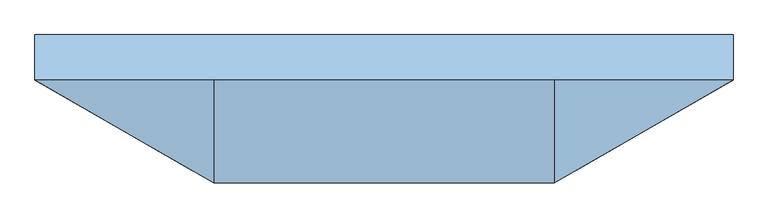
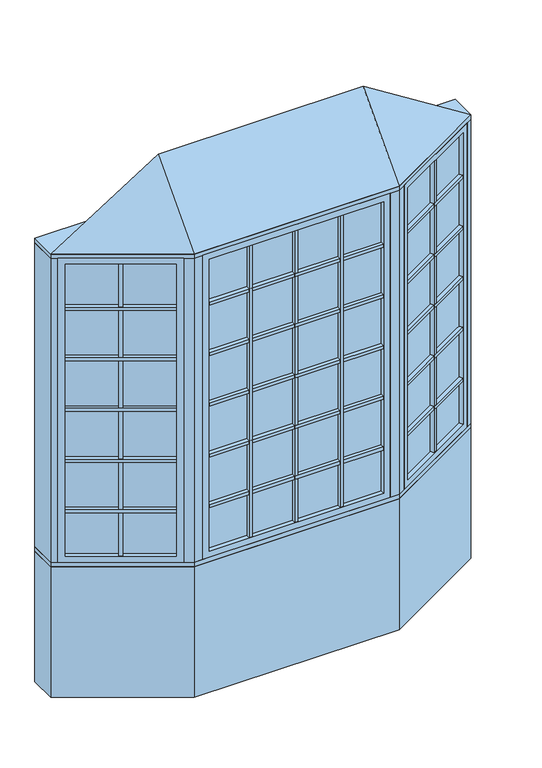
"""IFC4 building model written with IfcOpenShell, lengths in millimetres: window geometry, Pollard_Windows_Tudor Casement Bows and Bays : AML-BAY 30 AFR0618-12-600_GC."""

from ifc_helpers import new_model, si_unit, frame, origin, origin_with_axes, place, context, project, spatial, polyline, outline, extrude, faceted_brep, source, transform, mapped, element, save


def window_de865a25(model_context):
    return source(origin(), model_context, "Body", "SolidModel", [
        extrude(outline(polyline([(646.881999, -376.6297343), (635.881999, -357.5771754), (1102.1135794, -88.3982469), (1113.1135794, -107.4508058), (646.881999, -376.6297343)])), frame((0.0, 0.0, 1690.998), z_axis=(0.0, 0.0, 1.0), x_axis=(1.0, 0.0, 0.0)), (0.0, 0.0, 1.0), 18.0),
        extrude(outline(polyline([(633.341999, -353.1777664), (622.341999, -334.1252075), (1088.5735794, -64.946279), (1099.5735794, -83.9988379), (633.341999, -353.1777664)])), frame((0.0, 0.0, 1690.998), z_axis=(0.0, 0.0, 1.0), x_axis=(1.0, 0.0, 0.0)), (0.0, 0.0, 1.0), 18.0),
        extrude(outline(polyline([(646.881999, -376.6297343), (635.881999, -357.5771754), (1102.1135794, -88.3982469), (1113.1135794, -107.4508058), (646.881999, -376.6297343)])), frame((0.0, 0.0, 1090.998), z_axis=(0.0, 0.0, 1.0), x_axis=(1.0, 0.0, 0.0)), (0.0, 0.0, 1.0), 18.0),
        extrude(outline(polyline([(633.341999, -353.1777664), (622.341999, -334.1252075), (1088.5735794, -64.946279), (1099.5735794, -83.9988379), (633.341999, -353.1777664)])), frame((0.0, 0.0, 1090.998), z_axis=(0.0, 0.0, 1.0), x_axis=(1.0, 0.0, 0.0)), (0.0, 0.0, 1.0), 18.0),
        extrude(outline(polyline([(646.881999, -376.6297343), (635.881999, -357.5771754), (1102.1135794, -88.3982469), (1113.1135794, -107.4508058), (646.881999, -376.6297343)])), frame((0.0, 0.0, 1390.998), z_axis=(0.0, 0.0, 1.0), x_axis=(1.0, 0.0, 0.0)), (0.0, 0.0, 1.0), 18.0),
        extrude(outline(polyline([(633.341999, -353.1777664), (622.341999, -334.1252075), (1088.5735794, -64.946279), (1099.5735794, -83.9988379), (633.341999, -353.1777664)])), frame((0.0, 0.0, 1390.998), z_axis=(0.0, 0.0, 1.0), x_axis=(1.0, 0.0, 0.0)), (0.0, 0.0, 1.0), 18.0),
        extrude(outline(polyline([(646.881999, -376.6297343), (635.881999, -357.5771754), (1102.1135794, -88.3982469), (1113.1135794, -107.4508058), (646.881999, -376.6297343)])), frame((0.0, 0.0, 1990.998), z_axis=(0.0, 0.0, 1.0), x_axis=(1.0, 0.0, 0.0)), (0.0, 0.0, 1.0), 18.0),
        extrude(outline(polyline([(633.341999, -353.1777664), (622.341999, -334.1252075), (1088.5735794, -64.946279), (1099.5735794, -83.9988379), (633.341999, -353.1777664)])), frame((0.0, 0.0, 1990.998), z_axis=(0.0, 0.0, 1.0), x_axis=(1.0, 0.0, 0.0)), (0.0, 0.0, 1.0), 18.0),
        extrude(outline(polyline([(646.881999, -376.6297343), (635.881999, -357.5771754), (1102.1135794, -88.3982469), (1113.1135794, -107.4508058), (646.881999, -376.6297343)])), frame((0.0, 0.0, 2290.998), z_axis=(0.0, 0.0, 1.0), x_axis=(1.0, 0.0, 0.0)), (0.0, 0.0, 1.0), 18.0),
        extrude(outline(polyline([(633.341999, -353.1777664), (622.341999, -334.1252075), (1088.5735794, -64.946279), (1099.5735794, -83.9988379), (633.341999, -353.1777664)])), frame((0.0, 0.0, 2290.998), z_axis=(0.0, 0.0, 1.0), x_axis=(1.0, 0.0, 0.0)), (0.0, 0.0, 1.0), 18.0),
        extrude(outline(polyline([(876.7920178, -218.4877112), (887.7920178, -237.5402701), (872.2035606, -246.5402701), (861.2035606, -227.4877112), (876.7920178, -218.4877112)])), frame((0.0, 0.0, 835.8628), z_axis=(0.0, 0.0, 1.0), x_axis=(1.0, 0.0, 0.0)), (0.0, 0.0, 1.0), 1728.2704),
        extrude(outline(polyline([(874.2520178, -214.0883021), (858.6635606, -223.0883021), (847.6635606, -204.0357432), (863.2520178, -195.0357432), (874.2520178, -214.0883021)])), frame((0.0, 0.0, 835.8628), z_axis=(0.0, 0.0, 1.0), x_axis=(1.0, 0.0, 0.0)), (0.0, 0.0, 1.0), 1728.2704),
        extrude(outline(polyline([(1113.112102, -82.0482469), (624.8834764, -363.9271754), (622.3434764, -359.5277664), (1110.572102, -77.6488379), (1113.112102, -82.0482469)])), frame((0.0, 0.0, 823.1628), z_axis=(0.0, 0.0, 1.0), x_axis=(1.0, 0.0, 0.0)), (0.0, 0.0, 1.0), 1753.6704),
        faceted_brep([(1102.1135794, -88.3982469, 835.8628), (1114.8135794, -110.3952922, 835.8628), (1114.8135794, -110.3952922, 2564.1332), (1102.1135794, -88.3982469, 2564.1332), (1110.572102, -77.6488379, 823.1628), (1113.112102, -82.0482469, 823.1628), (1113.112102, -82.0482469, 2576.8332), (1110.572102, -77.6488379, 2576.8332), (1086.8735794, -62.0017926, 835.8628), (1099.5735794, -83.9988379, 835.8628), (1099.5735794, -83.9988379, 2564.1332), (1086.8735794, -62.0017926, 2564.1332), (1145.8734073, -92.4628922, 799.998), (1117.9334073, -44.0693926, 799.998), (1117.9334073, -44.0693926, 2599.998), (1145.8734073, -92.4628922, 2599.998), (648.581999, -379.5742207, 2564.1332), (635.881999, -357.5771754, 2564.1332), (624.8834764, -363.9271754, 2576.8332), (622.3434764, -359.5277664, 2576.8332), (633.341999, -353.1777664, 2564.1332), (620.641999, -331.1807211, 2564.1332), (589.5821711, -349.1131211, 2599.998), (617.5221711, -397.5066207, 2599.998), (648.581999, -379.5742207, 835.8628), (635.881999, -357.5771754, 835.8628), (624.8834764, -363.9271754, 823.1628), (622.3434764, -359.5277664, 823.1628), (633.341999, -353.1777664, 835.8628), (620.641999, -331.1807211, 835.8628), (589.5821711, -349.1131211, 799.998), (617.5221711, -397.5066207, 799.998)], [[[0, 1, 2, 3]], [[4, 5, 6, 7]], [[8, 9, 10, 11]], [[12, 13, 14, 15]], [[3, 2, 16, 17]], [[7, 6, 18, 19]], [[11, 10, 20, 21]], [[15, 14, 22, 23]], [[17, 16, 24, 25]], [[19, 18, 26, 27]], [[21, 20, 28, 29]], [[23, 22, 30, 31]], [[25, 24, 1, 0]], [[5, 26, 18, 6], [3, 17, 25, 0]], [[27, 26, 5, 4]], [[7, 19, 27, 4], [9, 28, 20, 10]], [[29, 28, 9, 8]], [[13, 30, 22, 14], [11, 21, 29, 8]], [[31, 30, 13, 12]], [[15, 23, 31, 12], [1, 24, 16, 2]]]),
        extrude(outline(polyline([(264.0281504, -397.1066207), (264.0281504, -419.1066207), (246.0281504, -419.1066207), (246.0281504, -397.1066207), (264.0281504, -397.1066207)])), frame((0.0, 0.0, 835.8628), z_axis=(0.0, 0.0, 1.0), x_axis=(1.0, 0.0, 0.0)), (0.0, 0.0, 1.0), 1728.2704),
        extrude(outline(polyline([(264.0281504, -392.0266207), (246.0281504, -392.0266207), (246.0281504, -370.0266207), (264.0281504, -370.0266207), (264.0281504, -392.0266207)])), frame((0.0, 0.0, 835.8628), z_axis=(0.0, 0.0, 1.0), x_axis=(1.0, 0.0, 0.0)), (0.0, 0.0, 1.0), 1728.2704),
        extrude(outline(polyline([(-246.0281504, -397.1066207), (-246.0281504, -419.1066207), (-264.0281504, -419.1066207), (-264.0281504, -397.1066207), (-246.0281504, -397.1066207)])), frame((0.0, 0.0, 835.8628), z_axis=(0.0, 0.0, 1.0), x_axis=(1.0, 0.0, 0.0)), (0.0, 0.0, 1.0), 1728.2704),
        extrude(outline(polyline([(-246.0281504, -392.0266207), (-264.0281504, -392.0266207), (-264.0281504, -370.0266207), (-246.0281504, -370.0266207), (-246.0281504, -392.0266207)])), frame((0.0, 0.0, 835.8628), z_axis=(0.0, 0.0, 1.0), x_axis=(1.0, 0.0, 0.0)), (0.0, 0.0, 1.0), 1728.2704),
        extrude(outline(polyline([(-488.3561009, -419.1066207), (-488.3561009, -397.1066207), (488.3561009, -397.1066207), (488.3561009, -419.1066207), (-488.3561009, -419.1066207)])), frame((0.0, 0.0, 1090.998), z_axis=(0.0, 0.0, 1.0), x_axis=(1.0, 0.0, 0.0)), (0.0, 0.0, 1.0), 18.0),
        extrude(outline(polyline([(-488.3561009, -392.0266207), (-488.3561009, -370.0266207), (488.3561009, -370.0266207), (488.3561009, -392.0266207), (-488.3561009, -392.0266207)])), frame((0.0, 0.0, 1090.998), z_axis=(0.0, 0.0, 1.0), x_axis=(1.0, 0.0, 0.0)), (0.0, 0.0, 1.0), 18.0),
        extrude(outline(polyline([(-488.3561009, -419.1066207), (-488.3561009, -397.1066207), (488.3561009, -397.1066207), (488.3561009, -419.1066207), (-488.3561009, -419.1066207)])), frame((0.0, 0.0, 1390.998), z_axis=(0.0, 0.0, 1.0), x_axis=(1.0, 0.0, 0.0)), (0.0, 0.0, 1.0), 18.0),
        extrude(outline(polyline([(-488.3561009, -392.0266207), (-488.3561009, -370.0266207), (488.3561009, -370.0266207), (488.3561009, -392.0266207), (-488.3561009, -392.0266207)])), frame((0.0, 0.0, 1390.998), z_axis=(0.0, 0.0, 1.0), x_axis=(1.0, 0.0, 0.0)), (0.0, 0.0, 1.0), 18.0),
        extrude(outline(polyline([(-488.3561009, -419.1066207), (-488.3561009, -397.1066207), (488.3561009, -397.1066207), (488.3561009, -419.1066207), (-488.3561009, -419.1066207)])), frame((0.0, 0.0, 1690.998), z_axis=(0.0, 0.0, 1.0), x_axis=(1.0, 0.0, 0.0)), (0.0, 0.0, 1.0), 18.0),
        extrude(outline(polyline([(-488.3561009, -392.0266207), (-488.3561009, -370.0266207), (488.3561009, -370.0266207), (488.3561009, -392.0266207), (-488.3561009, -392.0266207)])), frame((0.0, 0.0, 1690.998), z_axis=(0.0, 0.0, 1.0), x_axis=(1.0, 0.0, 0.0)), (0.0, 0.0, 1.0), 18.0),
        extrude(outline(polyline([(-488.3561009, -419.1066207), (-488.3561009, -397.1066207), (488.3561009, -397.1066207), (488.3561009, -419.1066207), (-488.3561009, -419.1066207)])), frame((0.0, 0.0, 1990.998), z_axis=(0.0, 0.0, 1.0), x_axis=(1.0, 0.0, 0.0)), (0.0, 0.0, 1.0), 18.0),
        extrude(outline(polyline([(-488.3561009, -392.0266207), (-488.3561009, -370.0266207), (488.3561009, -370.0266207), (488.3561009, -392.0266207), (-488.3561009, -392.0266207)])), frame((0.0, 0.0, 1990.998), z_axis=(0.0, 0.0, 1.0), x_axis=(1.0, 0.0, 0.0)), (0.0, 0.0, 1.0), 18.0),
        extrude(outline(polyline([(-1113.1135794, -107.4508058), (-1102.1135794, -88.3982469), (-635.881999, -357.5771754), (-646.881999, -376.6297343), (-1113.1135794, -107.4508058)])), frame((0.0, 0.0, 1090.998), z_axis=(0.0, 0.0, 1.0), x_axis=(1.0, 0.0, 0.0)), (0.0, 0.0, 1.0), 18.0),
        extrude(outline(polyline([(-1099.5735794, -83.9988379), (-1088.5735794, -64.946279), (-622.341999, -334.1252075), (-633.341999, -353.1777664), (-1099.5735794, -83.9988379)])), frame((0.0, 0.0, 1090.998), z_axis=(0.0, 0.0, 1.0), x_axis=(1.0, 0.0, 0.0)), (0.0, 0.0, 1.0), 18.0),
        extrude(outline(polyline([(-1113.1135794, -107.4508058), (-1102.1135794, -88.3982469), (-635.881999, -357.5771754), (-646.881999, -376.6297343), (-1113.1135794, -107.4508058)])), frame((0.0, 0.0, 1390.998), z_axis=(0.0, 0.0, 1.0), x_axis=(1.0, 0.0, 0.0)), (0.0, 0.0, 1.0), 18.0),
        extrude(outline(polyline([(-1099.5735794, -83.9988379), (-1088.5735794, -64.946279), (-622.341999, -334.1252075), (-633.341999, -353.1777664), (-1099.5735794, -83.9988379)])), frame((0.0, 0.0, 1390.998), z_axis=(0.0, 0.0, 1.0), x_axis=(1.0, 0.0, 0.0)), (0.0, 0.0, 1.0), 18.0),
        extrude(outline(polyline([(-1113.1135794, -107.4508058), (-1102.1135794, -88.3982469), (-635.881999, -357.5771754), (-646.881999, -376.6297343), (-1113.1135794, -107.4508058)])), frame((0.0, 0.0, 1690.998), z_axis=(0.0, 0.0, 1.0), x_axis=(1.0, 0.0, 0.0)), (0.0, 0.0, 1.0), 18.0),
        extrude(outline(polyline([(-1099.5735794, -83.9988379), (-1088.5735794, -64.946279), (-622.341999, -334.1252075), (-633.341999, -353.1777664), (-1099.5735794, -83.9988379)])), frame((0.0, 0.0, 1690.998), z_axis=(0.0, 0.0, 1.0), x_axis=(1.0, 0.0, 0.0)), (0.0, 0.0, 1.0), 18.0),
        extrude(outline(polyline([(-1113.1135794, -107.4508058), (-1102.1135794, -88.3982469), (-635.881999, -357.5771754), (-646.881999, -376.6297343), (-1113.1135794, -107.4508058)])), frame((0.0, 0.0, 1990.998), z_axis=(0.0, 0.0, 1.0), x_axis=(1.0, 0.0, 0.0)), (0.0, 0.0, 1.0), 18.0),
        extrude(outline(polyline([(-1099.5735794, -83.9988379), (-1088.5735794, -64.946279), (-622.341999, -334.1252075), (-633.341999, -353.1777664), (-1099.5735794, -83.9988379)])), frame((0.0, 0.0, 1990.998), z_axis=(0.0, 0.0, 1.0), x_axis=(1.0, 0.0, 0.0)), (0.0, 0.0, 1.0), 18.0),
        extrude(outline(polyline([(-1113.1135794, -107.4508058), (-1102.1135794, -88.3982469), (-635.881999, -357.5771754), (-646.881999, -376.6297343), (-1113.1135794, -107.4508058)])), frame((0.0, 0.0, 2290.998), z_axis=(0.0, 0.0, 1.0), x_axis=(1.0, 0.0, 0.0)), (0.0, 0.0, 1.0), 18.0),
        extrude(outline(polyline([(-1099.5735794, -83.9988379), (-1088.5735794, -64.946279), (-622.341999, -334.1252075), (-633.341999, -353.1777664), (-1099.5735794, -83.9988379)])), frame((0.0, 0.0, 2290.998), z_axis=(0.0, 0.0, 1.0), x_axis=(1.0, 0.0, 0.0)), (0.0, 0.0, 1.0), 18.0),
        extrude(outline(polyline([(-488.3561009, -419.1066207), (-488.3561009, -397.1066207), (488.3561009, -397.1066207), (488.3561009, -419.1066207), (-488.3561009, -419.1066207)])), frame((0.0, 0.0, 2290.998), z_axis=(0.0, 0.0, 1.0), x_axis=(1.0, 0.0, 0.0)), (0.0, 0.0, 1.0), 18.0),
        extrude(outline(polyline([(-488.3561009, -392.0266207), (-488.3561009, -370.0266207), (488.3561009, -370.0266207), (488.3561009, -392.0266207), (-488.3561009, -392.0266207)])), frame((0.0, 0.0, 2290.998), z_axis=(0.0, 0.0, 1.0), x_axis=(1.0, 0.0, 0.0)), (0.0, 0.0, 1.0), 18.0),
        extrude(outline(polyline([(-861.2035606, -227.4877112), (-872.2035606, -246.5402701), (-887.7920178, -237.5402701), (-876.7920178, -218.4877112), (-861.2035606, -227.4877112)])), frame((0.0, 0.0, 835.8628), z_axis=(0.0, 0.0, 1.0), x_axis=(1.0, 0.0, 0.0)), (0.0, 0.0, 1.0), 1728.2704),
        extrude(outline(polyline([(-858.6635606, -223.0883021), (-874.2520178, -214.0883021), (-863.2520178, -195.0357432), (-847.6635606, -204.0357432), (-858.6635606, -223.0883021)])), frame((0.0, 0.0, 835.8628), z_axis=(0.0, 0.0, 1.0), x_axis=(1.0, 0.0, 0.0)), (0.0, 0.0, 1.0), 1728.2704),
        extrude(outline(polyline([(9.0, -397.1066207), (9.0, -419.1066207), (-9.0, -419.1066207), (-9.0, -397.1066207), (9.0, -397.1066207)])), frame((0.0, 0.0, 835.8628), z_axis=(0.0, 0.0, 1.0), x_axis=(1.0, 0.0, 0.0)), (0.0, 0.0, 1.0), 1728.2704),
        extrude(outline(polyline([(9.0, -392.0266207), (-9.0, -392.0266207), (-9.0, -370.0266207), (9.0, -370.0266207), (9.0, -392.0266207)])), frame((0.0, 0.0, 835.8628), z_axis=(0.0, 0.0, 1.0), x_axis=(1.0, 0.0, 0.0)), (0.0, 0.0, 1.0), 1728.2704),
        extrude(outline(polyline([(-624.8834764, -363.9271754), (-1113.112102, -82.0482469), (-1110.572102, -77.6488379), (-622.3434764, -359.5277664), (-624.8834764, -363.9271754)])), frame((0.0, 0.0, 823.1628), z_axis=(0.0, 0.0, 1.0), x_axis=(1.0, 0.0, 0.0)), (0.0, 0.0, 1.0), 1753.6704),
        faceted_brep([(-633.341999, -353.1777664, 2564.1332), (-620.641999, -331.1807211, 2564.1332), (-620.641999, -331.1807211, 835.8628), (-633.341999, -353.1777664, 835.8628), (-624.8834764, -363.9271754, 2576.8332), (-622.3434764, -359.5277664, 2576.8332), (-622.3434764, -359.5277664, 823.1628), (-624.8834764, -363.9271754, 823.1628), (-648.581999, -379.5742207, 2564.1332), (-635.881999, -357.5771754, 2564.1332), (-635.881999, -357.5771754, 835.8628), (-648.581999, -379.5742207, 835.8628), (-589.5821711, -349.1131211, 2599.998), (-617.5221711, -397.5066207, 2599.998), (-617.5221711, -397.5066207, 799.998), (-589.5821711, -349.1131211, 799.998), (-1086.8735794, -62.0017926, 835.8628), (-1099.5735794, -83.9988379, 835.8628), (-1110.572102, -77.6488379, 823.1628), (-1113.112102, -82.0482469, 823.1628), (-1102.1135794, -88.3982469, 835.8628), (-1114.8135794, -110.3952922, 835.8628), (-1145.8734073, -92.4628922, 799.998), (-1117.9334073, -44.0693926, 799.998), (-1086.8735794, -62.0017926, 2564.1332), (-1099.5735794, -83.9988379, 2564.1332), (-1110.572102, -77.6488379, 2576.8332), (-1113.112102, -82.0482469, 2576.8332), (-1102.1135794, -88.3982469, 2564.1332), (-1114.8135794, -110.3952922, 2564.1332), (-1145.8734073, -92.4628922, 2599.998), (-1117.9334073, -44.0693926, 2599.998)], [[[0, 1, 2, 3]], [[4, 5, 6, 7]], [[8, 9, 10, 11]], [[12, 13, 14, 15]], [[3, 2, 16, 17]], [[7, 6, 18, 19]], [[11, 10, 20, 21]], [[15, 14, 22, 23]], [[17, 16, 24, 25]], [[19, 18, 26, 27]], [[21, 20, 28, 29]], [[23, 22, 30, 31]], [[15, 23, 31, 12], [1, 24, 16, 2]], [[25, 24, 1, 0]], [[5, 26, 18, 6], [3, 17, 25, 0]], [[27, 26, 5, 4]], [[7, 19, 27, 4], [9, 28, 20, 10]], [[29, 28, 9, 8]], [[13, 30, 22, 14], [11, 21, 29, 8]], [[31, 30, 13, 12]]]),
        extrude(outline(polyline([(501.0561009, -397.1066207), (-501.0561009, -397.1066207), (-501.0561009, -392.0266207), (501.0561009, -392.0266207), (501.0561009, -397.1066207)])), frame((0.0, 0.0, 823.1628), z_axis=(0.0, 0.0, 1.0), x_axis=(1.0, 0.0, 0.0)), (0.0, 0.0, 1.0), 1753.6704),
        faceted_brep([(488.3561009, -397.1066207, 835.8628), (488.3561009, -422.5066207, 835.8628), (488.3561009, -422.5066207, 2564.1332), (488.3561009, -397.1066207, 2564.1332), (501.0561009, -392.0266207, 823.1628), (501.0561009, -397.1066207, 823.1628), (501.0561009, -397.1066207, 2576.8332), (501.0561009, -392.0266207, 2576.8332), (488.3561009, -366.6266207, 835.8628), (488.3561009, -392.0266207, 835.8628), (488.3561009, -392.0266207, 2564.1332), (488.3561009, -366.6266207, 2564.1332), (524.2209009, -422.5066207, 799.998), (524.2209009, -366.6266207, 799.998), (524.2209009, -366.6266207, 2599.998), (524.2209009, -422.5066207, 2599.998), (-488.3561009, -422.5066207, 2564.1332), (-488.3561009, -397.1066207, 2564.1332), (-501.0561009, -397.1066207, 2576.8332), (-501.0561009, -392.0266207, 2576.8332), (-488.3561009, -392.0266207, 2564.1332), (-488.3561009, -366.6266207, 2564.1332), (-524.2209009, -366.6266207, 2599.998), (-524.2209009, -422.5066207, 2599.998), (-488.3561009, -422.5066207, 835.8628), (-488.3561009, -397.1066207, 835.8628), (-501.0561009, -397.1066207, 823.1628), (-501.0561009, -392.0266207, 823.1628), (-488.3561009, -392.0266207, 835.8628), (-488.3561009, -366.6266207, 835.8628), (-524.2209009, -366.6266207, 799.998), (-524.2209009, -422.5066207, 799.998)], [[[0, 1, 2, 3]], [[4, 5, 6, 7]], [[8, 9, 10, 11]], [[12, 13, 14, 15]], [[3, 2, 16, 17]], [[7, 6, 18, 19]], [[11, 10, 20, 21]], [[15, 14, 22, 23]], [[17, 16, 24, 25]], [[19, 18, 26, 27]], [[21, 20, 28, 29]], [[23, 22, 30, 31]], [[15, 23, 31, 12], [1, 24, 16, 2]], [[25, 24, 1, 0]], [[5, 26, 18, 6], [3, 17, 25, 0]], [[27, 26, 5, 4]], [[7, 19, 27, 4], [9, 28, 20, 10]], [[29, 28, 9, 8]], [[13, 30, 22, 14], [11, 21, 29, 8]], [[31, 30, 13, 12]]]),
        faceted_brep([(1176.5, -74.7806207, 2625.398), (574.2209009, -422.5066207, 2625.398), (-574.2209009, -422.5066207, 2625.398), (-1176.5, -74.7806207, 2625.398), (-574.2209009, -74.7806207, 3006.398), (574.2209009, -74.7806207, 3006.398)], [[[0, 1, 2, 3]], [[3, 2, 4]], [[2, 1, 5, 4]], [[1, 0, 5]], [[0, 3, 4, 5]]]),
        extrude(outline(polyline([(-1176.5, 77.6193793), (1176.5, 77.6193793), (1176.5, -74.7806207), (574.2209009, -422.5066207), (-574.2209009, -422.5066207), (-1176.5, -74.7806207), (-1176.5, 77.6193793)])), frame((0.0, 0.0, 2599.998), z_axis=(0.0, 0.0, 1.0), x_axis=(1.0, 0.0, 0.0)), (0.0, 0.0, 1.0), 25.4),
        extrude(outline(polyline([(-1176.5, -74.7806207), (-1176.5, 77.6193793), (-1135.6645431, 77.6193793), (-1135.6645431, -74.7806207), (-1145.8734073, -92.4628922), (-1176.5, -74.7806207)])), frame((0.0, 0.0, 799.998), z_axis=(0.0, 0.0, 1.0), x_axis=(1.0, 0.0, 0.0)), (0.0, 0.0, 1.0), 1800.0),
        extrude(outline(polyline([(1176.5, 77.6193793), (1176.5, -74.7806207), (1145.8734073, -92.4628922), (1135.6645431, -74.7806207), (1135.6645431, 77.6193793), (1176.5, 77.6193793)])), frame((0.0, 0.0, 799.998), z_axis=(0.0, 0.0, 1.0), x_axis=(1.0, 0.0, 0.0)), (0.0, 0.0, 1.0), 1800.0),
        extrude(outline(polyline([(574.2209009, -422.5066207), (524.2209009, -422.5066207), (524.2209009, -372.5066207), (560.8234413, -372.5066207), (592.5221711, -354.2053505), (617.5221711, -397.5066207), (574.2209009, -422.5066207)])), frame((0.0, 0.0, 799.998), z_axis=(0.0, 0.0, 1.0), x_axis=(1.0, 0.0, 0.0)), (0.0, 0.0, 1.0), 1800.0),
        extrude(outline(polyline([(-574.2209009, -422.5066207), (-617.5221711, -397.5066207), (-592.5221711, -354.2053505), (-560.8234413, -372.5066207), (-524.2209009, -372.5066207), (-524.2209009, -422.5066207), (-574.2209009, -422.5066207)])), frame((0.0, 0.0, 799.998), z_axis=(0.0, 0.0, 1.0), x_axis=(1.0, 0.0, 0.0)), (0.0, 0.0, 1.0), 1800.0),
        extrude(outline(polyline([(-574.2209009, -422.5066207), (-1176.5, -74.7806207), (-1176.5, 77.6193793), (-1135.6645431, 77.6193793), (-533.385444, -270.1066207), (533.385444, -270.1066207), (1135.6645431, 77.6193793), (1176.5, 77.6193793), (1176.5, -74.7806207), (574.2209009, -422.5066207), (-574.2209009, -422.5066207)])), frame((0.0, 0.0, 774.598), z_axis=(0.0, 0.0, 1.0), x_axis=(1.0, 0.0, 0.0)), (0.0, 0.0, 1.0), 25.4),
        extrude(outline(polyline([(-1176.5, -74.7806207), (-1176.5, 77.6193793), (-1135.6645431, 77.6193793), (-533.385444, -270.1066207), (533.385444, -270.1066207), (1135.6645431, 77.6193793), (1176.5, 77.6193793), (1176.5, -74.7806207), (574.2209009, -422.5066207), (-574.2209009, -422.5066207), (-1176.5, -74.7806207)])), origin_with_axes(), (0.0, 0.0, 1.0), 774.598),
    ])


if __name__ == "__main__":
    model = new_model("IFC4")
    model_context = context("Model", 3, world=origin())
    ifc_project = project(units=[si_unit("LENGTHUNIT", "METRE", prefix="MILLI")], contexts=[model_context])
    site = spatial("IfcSite", under=ifc_project)
    building = spatial("IfcBuilding", under=site)
    placement = place(None, origin())
    window_shape = window_de865a25(model_context)
    element("IfcWindow", 1, ObjectType="Pollard_Windows_Tudor Casement Bows and Bays : AML-BAY 30 AFR0618-12-600_GC", at=placement, inside=building, context=model_context, shape_type="MappedRepresentation", body=[
        mapped(window_shape, transform((0.0, 0.0, 0.0), x_axis=(1.0, 0.0, 0.0), y_axis=(0.0, 1.0, 0.0), z_axis=(0.0, 0.0, 1.0))),
    ])
    save(model, "model.ifc")
